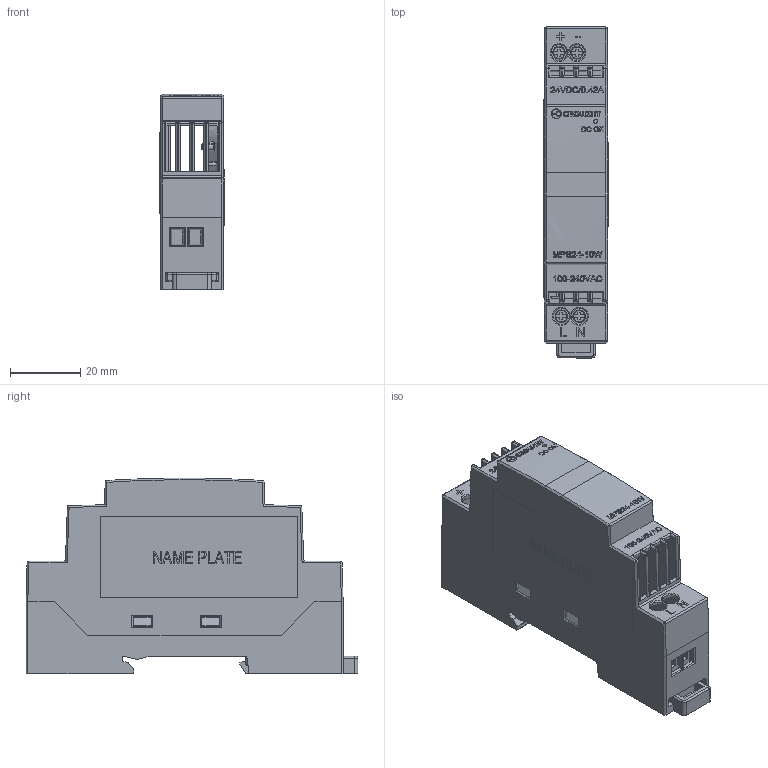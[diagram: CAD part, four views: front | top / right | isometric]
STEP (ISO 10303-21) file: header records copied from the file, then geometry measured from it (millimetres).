
FILE_DESCRIPTION (( 'STEP AP214' ), '1' );
FILE_NAME ('MPS24-10W.STEP', '2019-03-04T08:25:08', ( '' ), ( '' ), 'SwSTEP 2.0', 'SolidWorks 2017', '' );
FILE_SCHEMA (( 'AUTOMOTIVE_DESIGN' ));
Length unit declared in the file: millimetre
Products named in the file (10): CA816-33-04; Label; MB312-508M02; Din clip_crouzet; Cover_crouzet; DRL10 Base pilot; name plate_crouzet; MPS24-10W; Chassis_crouzet; CCB175 SMALL
Assembly tree (10 placements, depth 4):
  MPS24-10W
    DRL10 Base pilot
      Cover_crouzet
      CCB175 SMALL
        MB312-508M02  x2
    Chassis_crouzet
    name plate_crouzet
    Din clip_crouzet
    CA816-33-04
    Label
Bounding box: 18.2 x 94.2 x 55.6 mm (x, y, z)
Volume: 20799.4 mm3; surface area: 34473.8 mm2
Topology: 9 solids, 9 shells, 2052 faces, 6896 edges, 4983 vertices
Faces by surface type: plane 1091, cylinder 655, torus 118, cone 73, sphere 65, bspline 50
Entity records: 84638 total; most frequent: CARTESIAN_POINT 23462, ORIENTED_EDGE 13292, DIRECTION 10574, EDGE_CURVE 6646, VERTEX_POINT 4865, VECTOR 4364, LINE 4364, AXIS2_PLACEMENT_3D 3105
